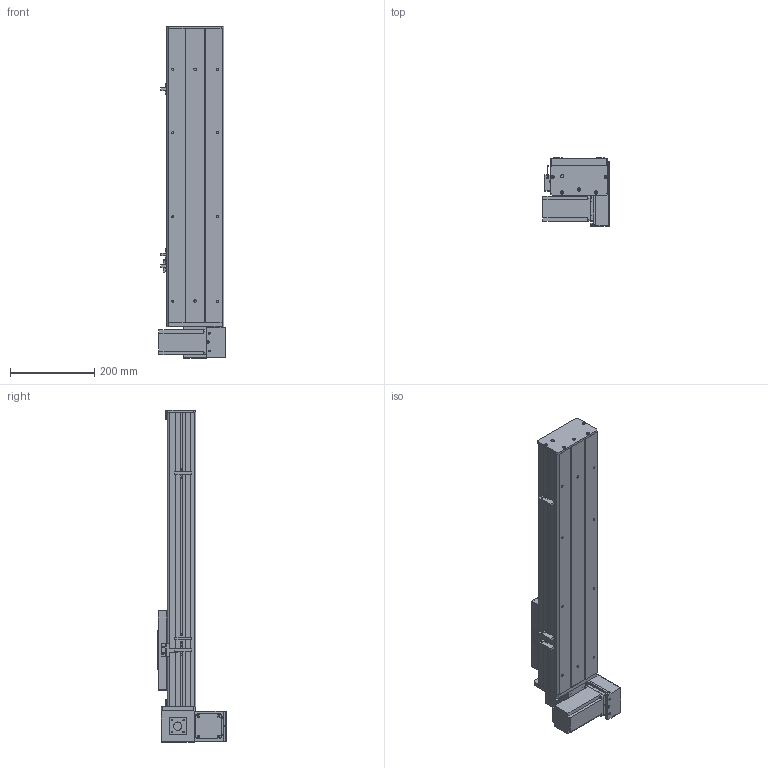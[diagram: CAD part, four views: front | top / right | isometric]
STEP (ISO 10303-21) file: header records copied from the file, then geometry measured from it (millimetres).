
FILE_DESCRIPTION (( 'STEP AP203' ), '1' );
FILE_NAME ('Y135CB-D90-S400-BM-P400W.STEP', '2020-02-18T09:15:42', ( '微软用户' ), ( '微软中国' ), 'SwSTEP 2.0', 'SolidWorks 2017', '' );
FILE_SCHEMA (( 'CONFIG_CONTROL_DESIGN' ));
Length unit declared in the file: millimetre
Products named in the file (18): Y135CB-D90-S400-BM-P400W; 135CB--詩湍-CE; 135CB---遴掛极.-; Y100-135俋离換覜ん--; 35CB---喘謫眊楊擘啣; Y135C-陔俋离換覜結え-; 0B-埴倛裔啣; 5C--俋欶; 0B-源倛裔啣; C-雄赽釱--; 0B-萇儂楊擘啣; Y10B--々湍喘謫眊--666; san松下电机400不带刹车----; 00B-俋欶BM--; 5CB --掛极耜裔啣-; Y10B-耜蚾蟀諉啣----; C-詩湍揤踡え-陔; Y135CB-耜裔
Assembly tree (21 placements, depth 2):
  Y135CB-D90-S400-BM-P400W
    Y135CB-耜裔
    135CB---遴掛极.-
    35CB---喘謫眊楊擘啣
    0B-埴倛裔啣
    0B-源倛裔啣
    0B-萇儂楊擘啣
    san松下电机400不带刹车----
    5CB --掛极耜裔啣-  x2
    C-詩湍揤踡え-陔  x2
    135CB--詩湍-CE
    Y100-135俋离換覜ん--  x3
    Y135C-陔俋离換覜結え-
    5C--俋欶
    C-雄赽釱--
    Y10B--々湍喘謫眊--666
    00B-俋欶BM--
    Y10B-耜蚾蟀諉啣----
Bounding box: 157 x 163.3 x 788 mm (x, y, z)
Volume: 2828305.9 mm3; surface area: 1090706.6 mm2
Topology: 21 solids, 21 shells, 933 faces, 2473 edges, 1638 vertices
Faces by surface type: cylinder 461, plane 456, cone 16
Entity records: 28743 total; most frequent: DIRECTION 4773, CARTESIAN_POINT 4680, ORIENTED_EDGE 4422, EDGE_CURVE 2211, AXIS2_PLACEMENT_3D 1735, VERTEX_POINT 1466, VECTOR 1303, LINE 1303
